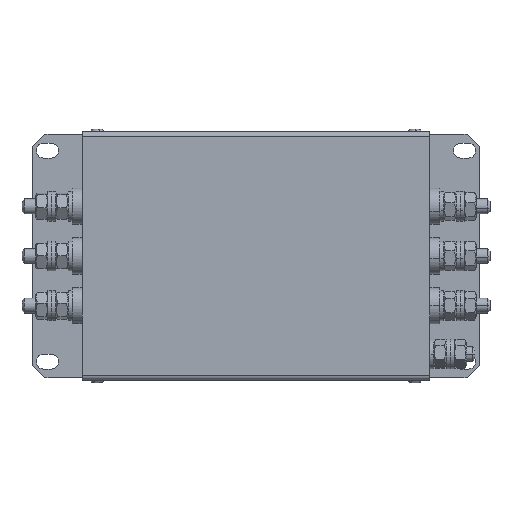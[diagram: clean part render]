
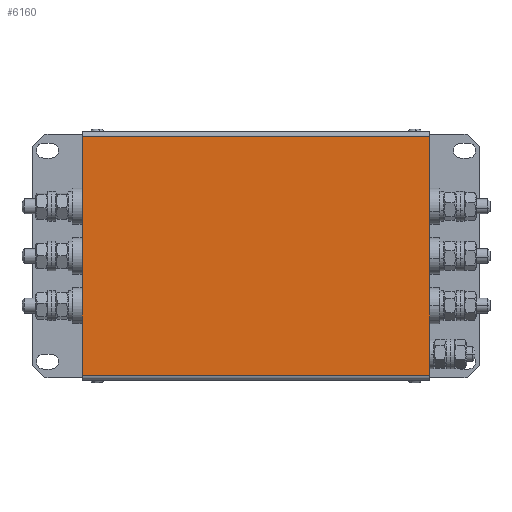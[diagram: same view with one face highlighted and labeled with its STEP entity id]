
A CAD part, top view. The second image highlights one B-rep face of the part: STEP entity #6160.
In plain terms, the highlighted planar face has unit normal (0, 0, 1).
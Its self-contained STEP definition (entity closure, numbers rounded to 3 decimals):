
#69 = VECTOR ( 'NONE', #1683, 1000. ) ;
#402 = VERTEX_POINT ( 'NONE', #9331 ) ;
#560 = VECTOR ( 'NONE', #7287, 1000. ) ;
#853 = CARTESIAN_POINT ( 'NONE',  ( 70., 48., 0. ) ) ;
#1189 = CARTESIAN_POINT ( 'NONE',  ( 70., -48., 0. ) ) ;
#1360 = VERTEX_POINT ( 'NONE', #1189 ) ;
#1377 = CARTESIAN_POINT ( 'NONE',  ( -70., -48., 0. ) ) ;
#1413 = VERTEX_POINT ( 'NONE', #1876 ) ;
#1448 = CARTESIAN_POINT ( 'NONE',  ( 70., 48., 0. ) ) ;
#1651 = EDGE_CURVE ( 'NONE', #5684, #1413, #8720, .T. ) ;
#1683 = DIRECTION ( 'NONE',  ( 0., 1., 0. ) ) ;
#1876 = CARTESIAN_POINT ( 'NONE',  ( -70., 48., 0. ) ) ;
#2421 = PLANE ( 'NONE',  #2942 ) ;
#2555 = CARTESIAN_POINT ( 'NONE',  ( -70., 50., 0. ) ) ;
#2942 = AXIS2_PLACEMENT_3D ( 'NONE', #6507, #6409, #7955 ) ;
#3286 = EDGE_CURVE ( 'NONE', #1413, #402, #5791, .T. ) ;
#3868 = LINE ( 'NONE', #1377, #9402 ) ;
#3947 = EDGE_LOOP ( 'NONE', ( #8038, #5589, #6893, #4484 ) ) ;
#4355 = EDGE_CURVE ( 'NONE', #1360, #5684, #5708, .T. ) ;
#4484 = ORIENTED_EDGE ( 'NONE', *, *, #1651, .T. ) ;
#5346 = DIRECTION ( 'NONE',  ( 1., 0., 0. ) ) ;
#5589 = ORIENTED_EDGE ( 'NONE', *, *, #7605, .T. ) ;
#5684 = VERTEX_POINT ( 'NONE', #853 ) ;
#5708 = LINE ( 'NONE', #6299, #69 ) ;
#5791 = LINE ( 'NONE', #2555, #560 ) ;
#6120 = DIRECTION ( 'NONE',  ( -1., 0., 0. ) ) ;
#6160 = ADVANCED_FACE ( 'NONE', ( #7311 ), #2421, .T. ) ;
#6299 = CARTESIAN_POINT ( 'NONE',  ( 70., -50., 0. ) ) ;
#6409 = DIRECTION ( 'NONE',  ( 0., 0., 1. ) ) ;
#6507 = CARTESIAN_POINT ( 'NONE',  ( 0., 0., 0. ) ) ;
#6893 = ORIENTED_EDGE ( 'NONE', *, *, #4355, .T. ) ;
#7287 = DIRECTION ( 'NONE',  ( 0., -1., 0. ) ) ;
#7311 = FACE_OUTER_BOUND ( 'NONE', #3947, .T. ) ;
#7605 = EDGE_CURVE ( 'NONE', #402, #1360, #3868, .T. ) ;
#7955 = DIRECTION ( 'NONE',  ( 1., 0., 0. ) ) ;
#8038 = ORIENTED_EDGE ( 'NONE', *, *, #3286, .T. ) ;
#8720 = LINE ( 'NONE', #1448, #9622 ) ;
#9331 = CARTESIAN_POINT ( 'NONE',  ( -70., -48., 0. ) ) ;
#9402 = VECTOR ( 'NONE', #5346, 1000. ) ;
#9622 = VECTOR ( 'NONE', #6120, 1000. ) ;
